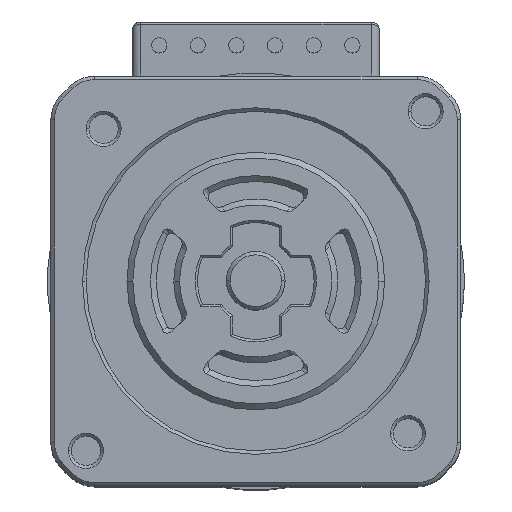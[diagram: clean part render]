
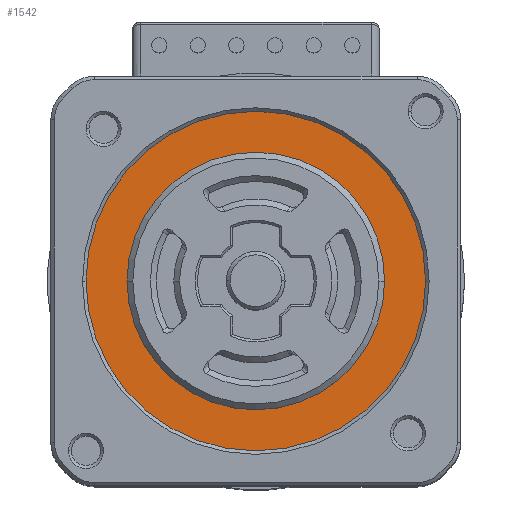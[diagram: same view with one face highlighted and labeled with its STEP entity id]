
A CAD part, top view. The second image highlights one B-rep face of the part: STEP entity #1542.
In plain terms, the highlighted planar face has unit normal (0, 0, 1).
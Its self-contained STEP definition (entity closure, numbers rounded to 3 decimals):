
#884 = VERTEX_POINT ( 'NONE', #5258 ) ;
#890 = VERTEX_POINT ( 'NONE', #5305 ) ;
#928 = VERTEX_POINT ( 'NONE', #5361 ) ;
#935 = EDGE_CURVE ( 'NONE', #928, #884, #5398, .T. ) ;
#939 = VERTEX_POINT ( 'NONE', #5400 ) ;
#947 = EDGE_CURVE ( 'NONE', #890, #939, #5381, .T. ) ;
#1465 = ORIENTED_EDGE ( 'NONE', *, *, #935, .F. ) ;
#1477 = ORIENTED_EDGE ( 'NONE', *, *, #1543, .T. ) ;
#1483 = EDGE_LOOP ( 'NONE', ( #1544, #1465 ) ) ;
#1519 = ORIENTED_EDGE ( 'NONE', *, *, #947, .T. ) ;
#1539 = EDGE_LOOP ( 'NONE', ( #1477, #1519 ) ) ;
#1542 = ADVANCED_FACE ( 'NONE', ( #6937, #6918 ), #6932, .T. ) ;
#1543 = EDGE_CURVE ( 'NONE', #939, #890, #6912, .T. ) ;
#1544 = ORIENTED_EDGE ( 'NONE', *, *, #1546, .F. ) ;
#1546 = EDGE_CURVE ( 'NONE', #884, #928, #6913, .T. ) ;
#5258 = CARTESIAN_POINT ( 'NONE',  ( -11., 0., 7.9 ) ) ;
#5305 = CARTESIAN_POINT ( 'NONE',  ( -14.5, 0., 7.9 ) ) ;
#5361 = CARTESIAN_POINT ( 'NONE',  ( 11., 0., 7.9 ) ) ;
#5381 = CIRCLE ( 'NONE', #5433, 14.5 ) ;
#5386 = CARTESIAN_POINT ( 'NONE',  ( 0., 0., 7.9 ) ) ;
#5392 = DIRECTION ( 'NONE',  ( 1., 0., 0. ) ) ;
#5393 = DIRECTION ( 'NONE',  ( 0., 0., 1. ) ) ;
#5394 = CARTESIAN_POINT ( 'NONE',  ( 0., 0., 7.9 ) ) ;
#5395 = AXIS2_PLACEMENT_3D ( 'NONE', #5394, #5393, #5392 ) ;
#5398 = CIRCLE ( 'NONE', #5395, 11. ) ;
#5400 = CARTESIAN_POINT ( 'NONE',  ( 14.5, 0., 7.9 ) ) ;
#5431 = DIRECTION ( 'NONE',  ( 1., 0., 0. ) ) ;
#5432 = DIRECTION ( 'NONE',  ( 0., 0., 1. ) ) ;
#5433 = AXIS2_PLACEMENT_3D ( 'NONE', #5386, #5432, #5431 ) ;
#6909 = DIRECTION ( 'NONE',  ( 1., 0., 0. ) ) ;
#6910 = DIRECTION ( 'NONE',  ( 0., 0., 1. ) ) ;
#6911 = CARTESIAN_POINT ( 'NONE',  ( 0., 0., 7.9 ) ) ;
#6912 = CIRCLE ( 'NONE', #6959, 14.5 ) ;
#6913 = CIRCLE ( 'NONE', #6961, 11. ) ;
#6918 = FACE_OUTER_BOUND ( 'NONE', #1539, .T. ) ;
#6923 = AXIS2_PLACEMENT_3D ( 'NONE', #6928, #6910, #6909 ) ;
#6928 = CARTESIAN_POINT ( 'NONE',  ( 0., 0., 7.9 ) ) ;
#6932 = PLANE ( 'NONE',  #6923 ) ;
#6937 = FACE_BOUND ( 'NONE', #1483, .T. ) ;
#6954 = DIRECTION ( 'NONE',  ( 1., 0., 0. ) ) ;
#6955 = DIRECTION ( 'NONE',  ( 0., 0., 1. ) ) ;
#6956 = CARTESIAN_POINT ( 'NONE',  ( 0., 0., 7.9 ) ) ;
#6957 = DIRECTION ( 'NONE',  ( 1., 0., 0. ) ) ;
#6958 = DIRECTION ( 'NONE',  ( 0., 0., 1. ) ) ;
#6959 = AXIS2_PLACEMENT_3D ( 'NONE', #6911, #6958, #6957 ) ;
#6961 = AXIS2_PLACEMENT_3D ( 'NONE', #6956, #6955, #6954 ) ;
